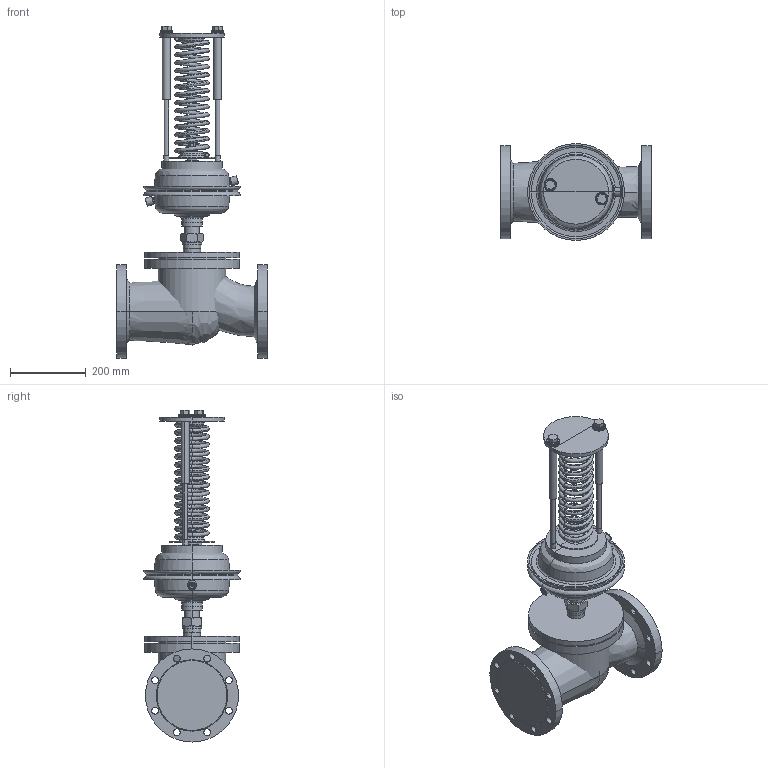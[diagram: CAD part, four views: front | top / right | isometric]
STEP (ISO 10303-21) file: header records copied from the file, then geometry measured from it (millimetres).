
FILE_DESCRIPTION(/* description */ (''),/* implementation_level */ '2;1');
FILE_NAME(/* name */ 'ETM_Регулятордавления_УРРД_НЗ_РД_DN125',/* time_stamp */ '2026-04-18T14:54:02+03:00',/* author */ (''),/* organization */ (''),/* preprocessor_version */ 'ST-DEVELOPER v20',/* originating_system */ '',/* authorisation */ '');
FILE_SCHEMA (('AP242_MANAGED_MODEL_BASED_3D_ENGINEERING_MIM_LF { 1 0 10303 442 1 1 4 }'));
Length unit declared in the file: millimetre
Products named in the file (13): TopLevelAssembly; Выдавливание; Переход; Выдавливание_
1; Переход_1; Переход_2; Переход_3; Объемная геометрия 
присоединена; Выдавливание_
2; Выдавливание_
3; Объемная геометрия 
присоединена_1; Выдавливание_
4; Пружина желтая
Assembly tree (12 placements, depth 2):
  TopLevelAssembly
    Выдавливание
    Переход
    Выдавливание_
1
    Переход_1
    Переход_2
    Переход_3
    Объемная геометрия 
присоединена
    Выдавливание_
2
    Выдавливание_
3
    Объемная геометрия 
присоединена_1
    Выдавливание_
4
    Пружина желтая
Bounding box: 400 x 255.07 x 873.91 mm (x, y, z)
Volume: 20484020.7 mm3; surface area: 1550488.5 mm2
Topology: 33 solids, 33 shells, 522 faces, 1078 edges, 560 vertices
Faces by surface type: bspline 191, plane 183, cylinder 138, cone 10
Entity records: 17101 total; most frequent: CARTESIAN_POINT 5903, DIRECTION 2372, ORIENTED_EDGE 2064, EDGE_CURVE 1032, AXIS2_PLACEMENT_3D 1008, CIRCLE 651, VERTEX_POINT 560, EDGE_LOOP 558
